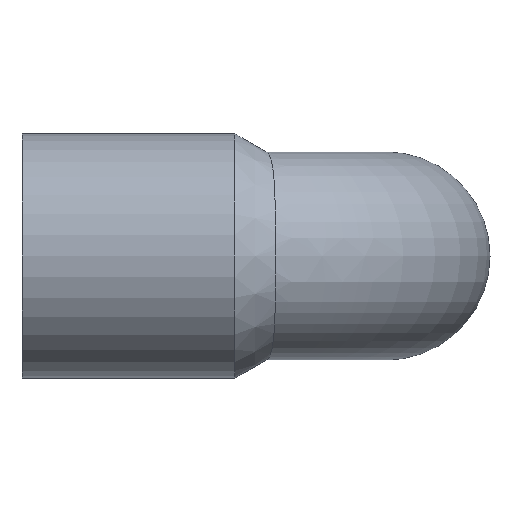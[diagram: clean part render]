
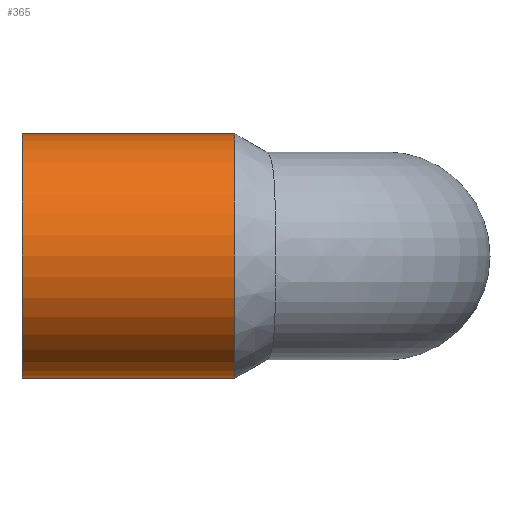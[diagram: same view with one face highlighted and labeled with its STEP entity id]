
A CAD part, front view. The second image highlights one B-rep face of the part: STEP entity #365.
In plain terms, the highlighted cylindrical face has radius 4.7 mm (diameter 9.4 mm), a full revolution.
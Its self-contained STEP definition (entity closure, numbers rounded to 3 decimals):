
#189=CARTESIAN_POINT('',(-6.,-12.3,0.0));
#190=VERTEX_POINT('',#189);
#191=CARTESIAN_POINT('',(-6.,-7.6,0.0));
#192=DIRECTION('',(-1.0,0.0,0.0));
#193=DIRECTION('',(0.0,-1.0,0.0));
#194=AXIS2_PLACEMENT_3D('',#191,#192,#193);
#195=CIRCLE('',#194,4.7);
#196=EDGE_CURVE('',#190,#190,#195,.T.);
#342=CARTESIAN_POINT('',(2.188,-12.3,0.0));
#343=VERTEX_POINT('',#342);
#344=CARTESIAN_POINT('',(2.188,-7.6,0.0));
#345=DIRECTION('',(-1.0,0.0,0.0));
#346=DIRECTION('',(0.0,-1.0,0.0));
#347=AXIS2_PLACEMENT_3D('',#344,#345,#346);
#348=CIRCLE('',#347,4.7);
#349=EDGE_CURVE('',#343,#343,#348,.T.);
#354=CARTESIAN_POINT('',(-1.906,-7.6,0.0));
#355=DIRECTION('',(-1.0,0.,0.0));
#356=DIRECTION('',(0.0,-1.0,0.0));
#357=AXIS2_PLACEMENT_3D('',#354,#355,#356);
#358=CYLINDRICAL_SURFACE('',#357,4.7);
#359=ORIENTED_EDGE('',*,*,#196,.F.);
#360=EDGE_LOOP('',(#359));
#361=FACE_OUTER_BOUND('',#360,.T.);
#362=ORIENTED_EDGE('',*,*,#349,.T.);
#363=EDGE_LOOP('',(#362));
#364=FACE_BOUND('',#363,.T.);
#365=ADVANCED_FACE('',(#361,#364),#358,.T.);
